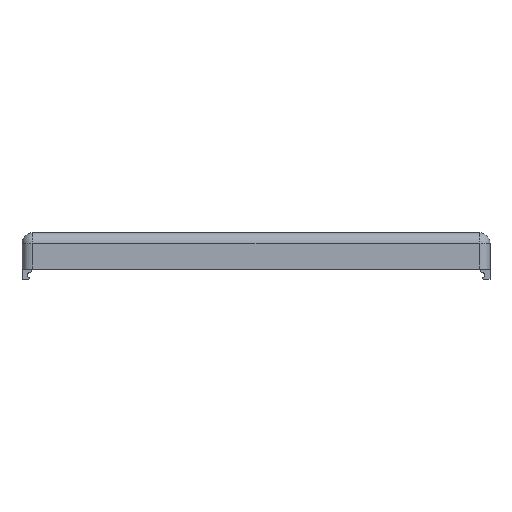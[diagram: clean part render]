
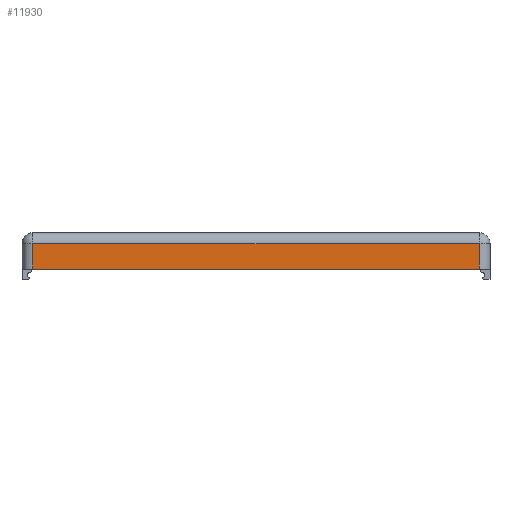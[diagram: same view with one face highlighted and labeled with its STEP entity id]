
A CAD part, front view. The second image highlights one B-rep face of the part: STEP entity #11930.
In plain terms, the highlighted planar face has unit normal (0, -1, 0).
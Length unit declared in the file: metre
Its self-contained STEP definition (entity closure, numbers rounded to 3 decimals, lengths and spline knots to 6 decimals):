
#2879=ORIENTED_EDGE('',*,*,#5797,.F.);
#2880=ORIENTED_EDGE('',*,*,#5782,.T.);
#2881=ORIENTED_EDGE('',*,*,#5796,.F.);
#2882=ORIENTED_EDGE('',*,*,#5798,.F.);
#5782=EDGE_CURVE('',#7320,#7319,#8317,.T.);
#5796=EDGE_CURVE('',#7325,#7319,#8325,.T.);
#5797=EDGE_CURVE('',#7320,#7326,#8326,.T.);
#5798=EDGE_CURVE('',#7326,#7325,#8327,.T.);
#7319=VERTEX_POINT('',#19836);
#7320=VERTEX_POINT('',#19838);
#7325=VERTEX_POINT('',#19857);
#7326=VERTEX_POINT('',#19866);
#8317=LINE('',#19837,#9425);
#8325=LINE('',#19861,#9433);
#8326=LINE('',#19865,#9434);
#8327=LINE('',#19867,#9435);
#9425=VECTOR('',#15707,1.);
#9433=VECTOR('',#15735,1.);
#9434=VECTOR('',#15742,1.);
#9435=VECTOR('',#15743,1.);
#10135=EDGE_LOOP('',(#2879,#2880,#2881,#2882));
#10955=FACE_BOUND('',#10135,.T.);
#11557=PLANE('',#12988);
#11930=ADVANCED_FACE('',(#10955),#11557,.F.);
#12988=AXIS2_PLACEMENT_3D('',#19864,#15740,#15741);
#15707=DIRECTION('',(1.,0.,0.));
#15735=DIRECTION('',(0.,0.,-1.));
#15740=DIRECTION('',(0.,1.,0.));
#15741=DIRECTION('',(0.,0.,1.));
#15742=DIRECTION('',(0.,0.,1.));
#15743=DIRECTION('',(1.,0.,0.));
#19836=CARTESIAN_POINT('',(-0.026861,-0.151319,0.0001));
#19837=CARTESIAN_POINT('',(-0.089,-0.151319,0.0001));
#19838=CARTESIAN_POINT('',(-0.151219,-0.151319,0.0001));
#19857=CARTESIAN_POINT('',(-0.026861,-0.151319,0.0072));
#19861=CARTESIAN_POINT('',(-0.026861,-0.151319,-0.01357));
#19864=CARTESIAN_POINT('',(-0.089,-0.151319,-0.01552));
#19865=CARTESIAN_POINT('',(-0.151219,-0.151319,-0.01552));
#19866=CARTESIAN_POINT('',(-0.151219,-0.151319,0.0072));
#19867=CARTESIAN_POINT('',(-0.089,-0.151319,0.0072));
